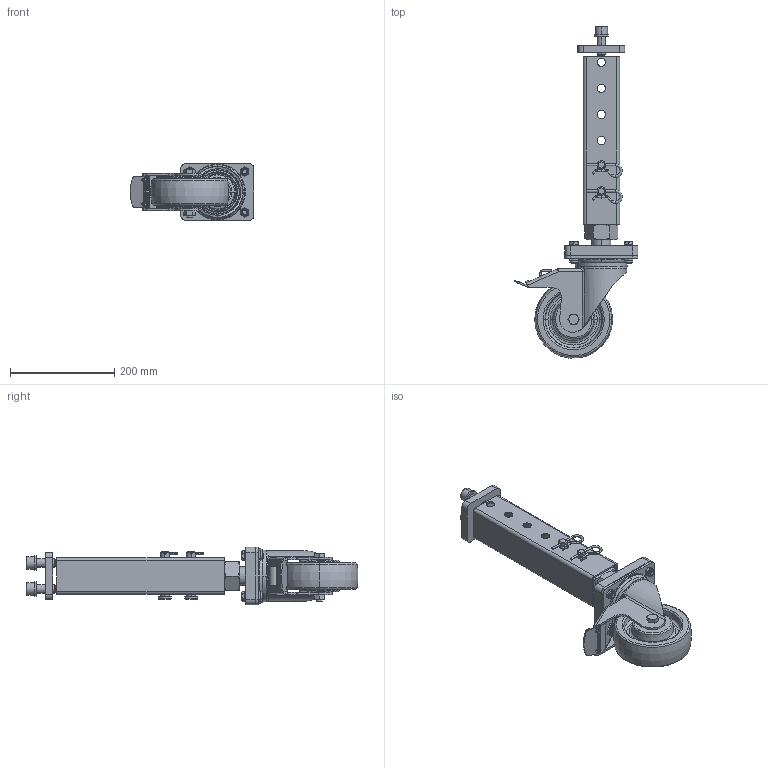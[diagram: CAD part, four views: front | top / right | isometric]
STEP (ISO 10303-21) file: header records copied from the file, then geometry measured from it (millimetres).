
FILE_DESCRIPTION (( 'STEP AP203' ), '1' );
FILE_NAME ('220879.X - 22001390__________.step', '2023-01-27T09:20:23', ( '' ), ( '' ), 'SwSTEP 2.0', 'SolidWorks 2020', '' );
FILE_SCHEMA (( 'CONFIG_CONTROL_DESIGN' ));
Length unit declared in the file: millimetre
Products named in the file (1): 220879.X - 22001390__________
Bounding box: 237.13 x 636.66 x 110 mm (x, y, z)
Volume: 2085407.9 mm3; surface area: 502154 mm2
Topology: 29 solids, 31 shells, 1427 faces, 3439 edges, 2104 vertices
Faces by surface type: plane 445, cone 323, cylinder 321, bspline 202, torus 131, sphere 5
Entity records: 54819 total; most frequent: CARTESIAN_POINT 23016, ORIENTED_EDGE 6860, DIRECTION 6241, EDGE_CURVE 3430, AXIS2_PLACEMENT_3D 2527, VERTEX_POINT 2103, EDGE_LOOP 1547, FACE_OUTER_BOUND 1427
